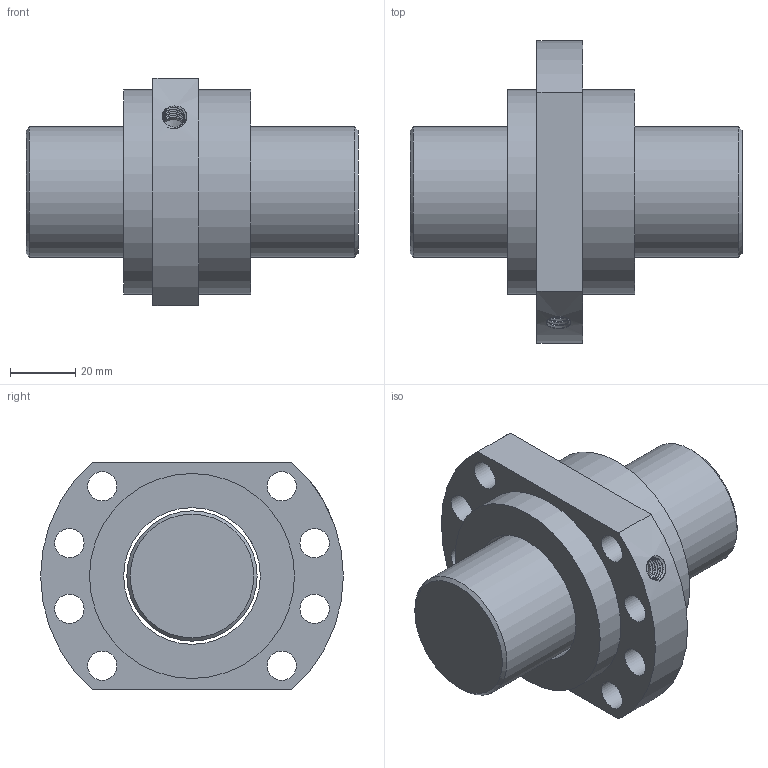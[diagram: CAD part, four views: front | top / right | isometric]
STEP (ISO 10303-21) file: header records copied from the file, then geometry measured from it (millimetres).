
FILE_DESCRIPTION(/* description */ ('Unknown','CAx-IF Rec.Pracs.---Representation and Presentation of Product Manufacturing Information (PMI)---4.0---2014-10-13','CAx-IF Rec.Pracs.---3D Tessellated Geometry---0.4---2014-09-14','2;1'),/* implementation_level */ '2;1');
FILE_NAME(/* name */ 'SFA4005-3.8',/* time_stamp */ '2020-12-08T11:35:52+08:00',/* author */ ('Unknown'),/* organization */ ('Unknown'),/* preprocessor_version */ 'ST-DEVELOPER v16.7',/* originating_system */ 'Solid Edge',/* authorisation */ 'Unknown');
FILE_SCHEMA (('AP242_MANAGED_MODEL_BASED_3D_ENGINEERING_MIM_LF { 1 0 10303 442 1 1 4 }'));
Length unit declared in the file: millimetre
Products named in the file (1): SFA4005-3.8
Bounding box: 102 x 93 x 70 mm (x, y, z)
Volume: 225955.2 mm3; surface area: 40657.9 mm2
Topology: 2 solids, 2 shells, 32 faces, 76 edges, 50 vertices
Faces by surface type: cylinder 18, plane 9, cone 3, bspline 2
Full cylindrical faces by diameter (mm): 2.5 x1, 6.917 x1, 9 x8, 40 x1, 42 x1, 63 x2
Entity records: 2736 total; most frequent: CARTESIAN_POINT 1976, DIRECTION 146, ORIENTED_EDGE 108, EDGE_LOOP 71, FACE_BOUND 71, AXIS2_PLACEMENT_3D 70, EDGE_CURVE 54, VERTEX_POINT 45
